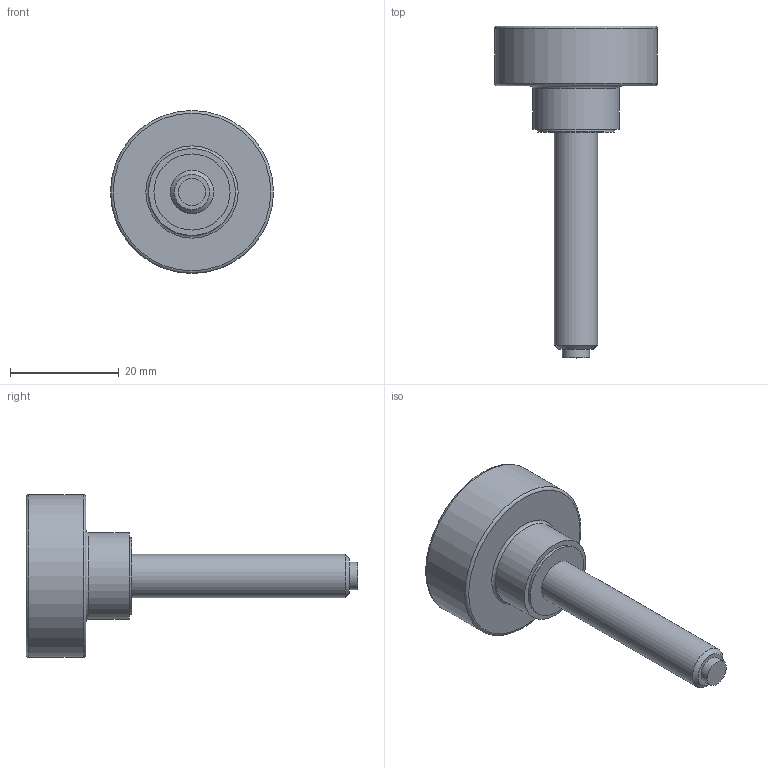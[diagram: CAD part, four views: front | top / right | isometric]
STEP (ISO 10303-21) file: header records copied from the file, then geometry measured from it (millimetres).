
FILE_DESCRIPTION( ( 'STEP AP203' ), '1' );
FILE_NAME( 'C:/Temp/Ganter_Step_05_03_2020/data/2_2/gn_421_10/Hollow knurled knob, with tip GN 421.10-M8-40-KU.stp', '2020-03-05T12:25:36', ( 'License CC BY-ND 4.0' ), ( 'CADENAS' ), ' ', 'PARTsolutions', ' ' );
FILE_SCHEMA( ( 'CONFIG_CONTROL_DESIGN' ) );
Length unit declared in the file: millimetre
Products named in the file (1): _Hollow knurled knob, with tip GN 421.10-M8-40-KU
Bounding box: 30 x 61.1 x 30 mm (x, y, z)
Volume: 7802.7 mm3; surface area: 4509.7 mm2
Topology: 1 solids, 1 shells, 19 faces, 30 edges, 19 vertices
Faces by surface type: plane 8, cylinder 7, torus 3, cone 1
Full cylindrical faces by diameter (mm): 5 x1, 8 x1, 12 x1, 14 x1, 16 x1, 26 x1, 30 x1
Entity records: 418 total; most frequent: DIRECTION 76, CARTESIAN_POINT 56, AXIS2_PLACEMENT_3D 38, EDGE_LOOP 36, ORIENTED_EDGE 36, FACE_OUTER_BOUND 29, ADVANCED_FACE 19, EDGE_CURVE 18
